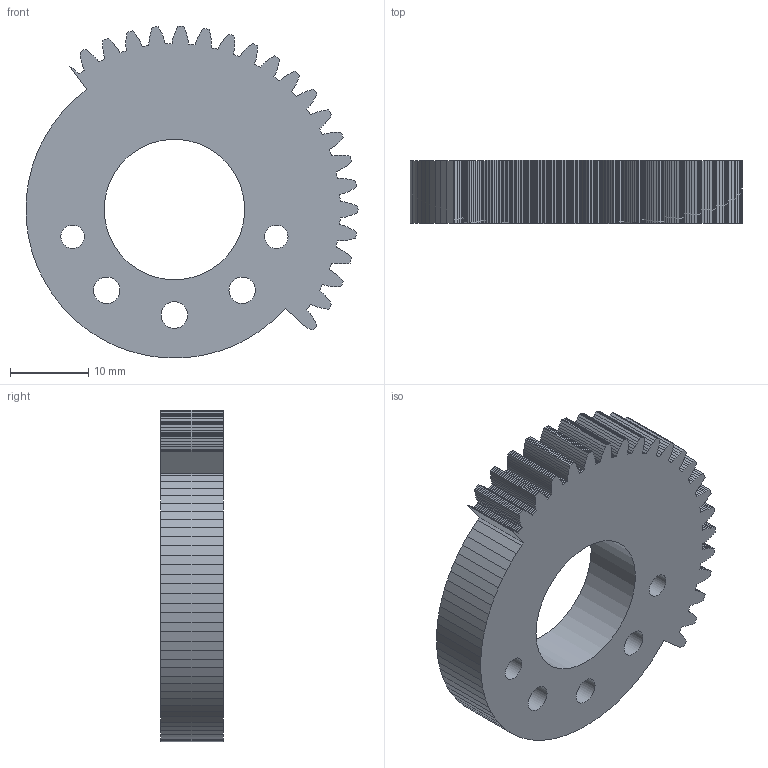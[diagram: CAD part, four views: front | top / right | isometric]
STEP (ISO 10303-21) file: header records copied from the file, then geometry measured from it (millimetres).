
FILE_DESCRIPTION(('Open CASCADE Model'),'2;1');
FILE_NAME('Open CASCADE Shape Model','2026-10-17T23:18:52',('Author'),( 'Open CASCADE'),'Open CASCADE STEP processor 7.9','Open CASCADE 7.9' ,'Unknown');
FILE_SCHEMA(('AUTOMOTIVE_DESIGN { 1 0 10303 214 1 1 1 1 }'));
Length unit declared in the file: millimetre
Products named in the file (1): Open CASCADE STEP translator 7.9 6
Bounding box: 42.5 x 8 x 42.5 mm (x, y, z)
Volume: 8361.2 mm3; surface area: 4593.2 mm2
Topology: 1 solids, 1 shells, 546 faces, 1632 edges, 1088 vertices
Faces by surface type: plane 540, cylinder 6
Full cylindrical faces by diameter (mm): 3 x2, 3.4 x3, 18 x1
Entity records: 39018 total; most frequent: CARTESIAN_POINT 6751, DIRECTION 5782, LINE 4652, VECTOR 4652, ORIENTED_EDGE 3264, PCURVE 3264, DEFINITIONAL_REPRESENTATION 3264, EDGE_CURVE 1632
